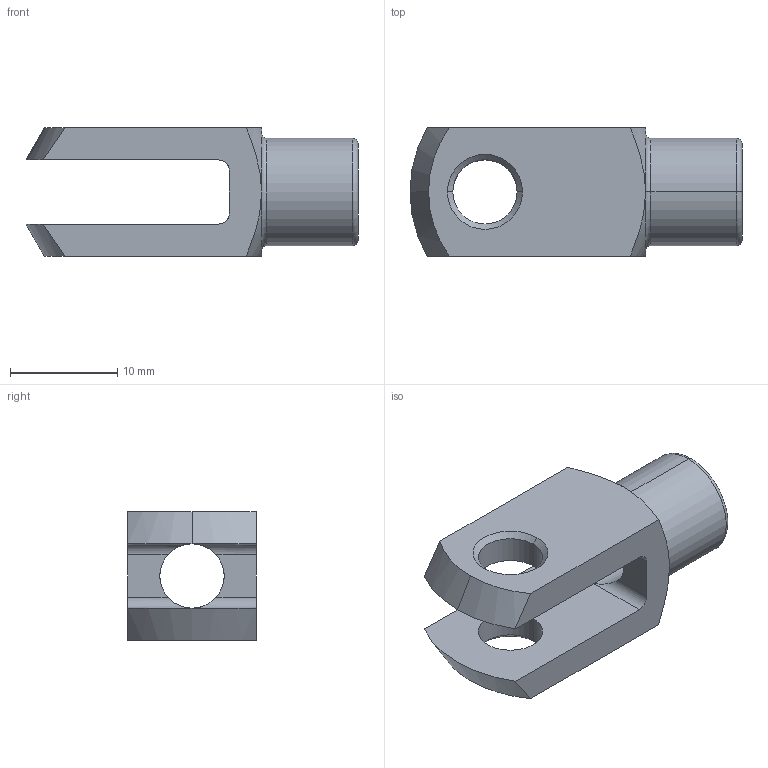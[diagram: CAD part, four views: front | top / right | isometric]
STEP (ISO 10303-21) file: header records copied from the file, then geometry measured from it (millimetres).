
FILE_DESCRIPTION (( 'STEP AP203' ), '1' );
FILE_NAME ('65636.W0061.step', '2014-01-17T13:11:06', ( 'User' ), ( '' ), 'SwSTEP 2.0', 'SolidWorks 2009', '' );
FILE_SCHEMA (( 'CONFIG_CONTROL_DESIGN' ));
Length unit declared in the file: millimetre
Products named in the file (1): 65636.W0061
Bounding box: 31 x 12 x 12 mm (x, y, z)
Volume: 1878.2 mm3; surface area: 1883.8 mm2
Topology: 1 solids, 1 shells, 39 faces, 93 edges, 56 vertices
Faces by surface type: cone 13, cylinder 12, plane 10, torus 4
Entity records: 1288 total; most frequent: CARTESIAN_POINT 293, DIRECTION 201, ORIENTED_EDGE 186, EDGE_CURVE 93, AXIS2_PLACEMENT_3D 84, VERTEX_POINT 56, EDGE_LOOP 45, CIRCLE 44
